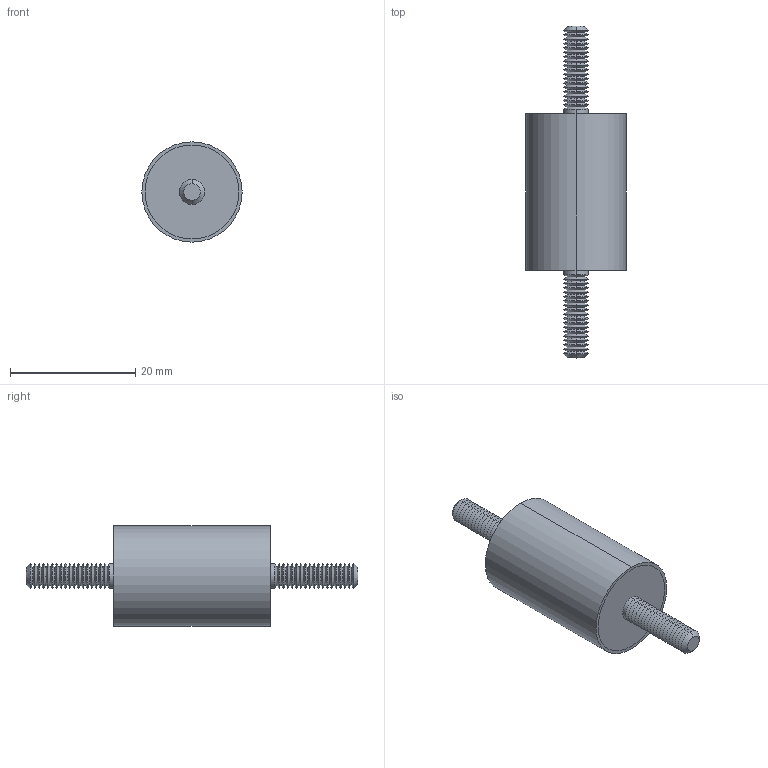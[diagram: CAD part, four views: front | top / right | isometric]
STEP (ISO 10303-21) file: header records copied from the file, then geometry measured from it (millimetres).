
FILE_DESCRIPTION (( 'STEP AP203' ), '1' );
FILE_NAME ('61040.W0157.step', '2019-09-24T22:25:07', ( '' ), ( '' ), 'SwSTEP 2.0', 'SolidWorks 2017', '' );
FILE_SCHEMA (( 'CONFIG_CONTROL_DESIGN' ));
Length unit declared in the file: millimetre
Products named in the file (4): Part1_61040.W0157; 61040.W0157; Part3_61040.W0157; Part2_61040.W0157
Assembly tree (3 placements, depth 2):
  61040.W0157
    Part1_61040.W0157
    Part2_61040.W0157
    Part3_61040.W0157
Bounding box: 16 x 53 x 16 mm (x, y, z)
Volume: 5286.7 mm3; surface area: 3115.1 mm2
Topology: 3 solids, 3 shells, 172 faces, 338 edges, 176 vertices
Faces by surface type: cone 148, cylinder 14, plane 10
Entity records: 4708 total; most frequent: DIRECTION 870, CARTESIAN_POINT 692, ORIENTED_EDGE 676, AXIS2_PLACEMENT_3D 354, EDGE_CURVE 338, VERTEX_POINT 176, CIRCLE 176, EDGE_LOOP 176
